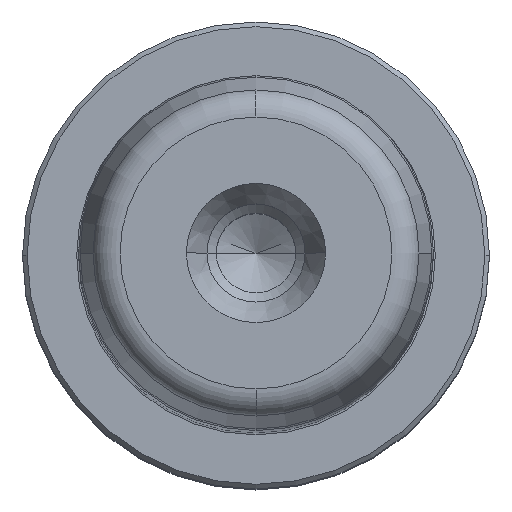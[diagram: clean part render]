
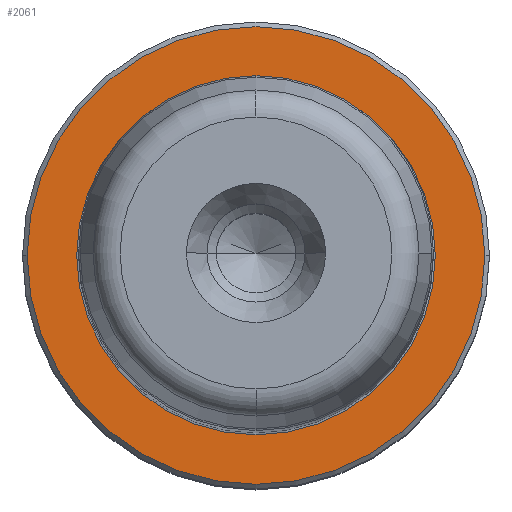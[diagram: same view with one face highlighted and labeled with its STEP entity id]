
A CAD part, top view. The second image highlights one B-rep face of the part: STEP entity #2061.
In plain terms, the highlighted planar face has unit normal (0, 0, 1).
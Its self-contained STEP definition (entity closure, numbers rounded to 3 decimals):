
#898=CARTESIAN_POINT('',(0.0,-19.2,5.));
#899=VERTEX_POINT('',#898);
#907=CARTESIAN_POINT('',(19.2,0.,5.0));
#908=VERTEX_POINT('',#907);
#909=CARTESIAN_POINT('',(0.0,0.,5.0));
#910=DIRECTION('',(0.0,0.0,1.0));
#911=DIRECTION('',(1.0,0.0,0.0));
#912=AXIS2_PLACEMENT_3D('',#909,#910,#911);
#913=CIRCLE('',#912,19.2);
#914=EDGE_CURVE('',#899,#908,#913,.T.);
#916=CARTESIAN_POINT('',(0.,19.2,5.));
#917=VERTEX_POINT('',#916);
#918=CARTESIAN_POINT('',(0.0,0.,5.0));
#919=DIRECTION('',(0.0,0.0,1.0));
#920=DIRECTION('',(1.0,0.0,0.0));
#921=AXIS2_PLACEMENT_3D('',#918,#919,#920);
#922=CIRCLE('',#921,19.2);
#923=EDGE_CURVE('',#908,#917,#922,.T.);
#950=CARTESIAN_POINT('',(24.5,0.,5.0));
#951=VERTEX_POINT('',#950);
#960=CARTESIAN_POINT('',(-24.5,0.,5.0));
#961=VERTEX_POINT('',#960);
#962=CARTESIAN_POINT('',(0.0,0.,5.0));
#963=DIRECTION('',(0.0,0.0,1.0));
#964=DIRECTION('',(1.0,0.0,0.0));
#965=AXIS2_PLACEMENT_3D('',#962,#963,#964);
#966=CIRCLE('',#965,24.5);
#967=EDGE_CURVE('',#961,#951,#966,.T.);
#2031=CARTESIAN_POINT('',(0.0,0.,5.0));
#2032=DIRECTION('',(0.0,0.0,1.0));
#2033=DIRECTION('',(1.0,0.0,0.0));
#2034=AXIS2_PLACEMENT_3D('',#2031,#2032,#2033);
#2035=CIRCLE('',#2034,24.5);
#2036=EDGE_CURVE('',#951,#961,#2035,.T.);
#2041=CARTESIAN_POINT('',(21.85,0.,5.0));
#2042=DIRECTION('',(0.0,0.0,1.0));
#2043=DIRECTION('',(0.0,-1.0,0.0));
#2044=AXIS2_PLACEMENT_3D('',#2041,#2042,#2043);
#2045=PLANE('',#2044);
#2046=ORIENTED_EDGE('',*,*,#2036,.T.);
#2047=ORIENTED_EDGE('',*,*,#967,.T.);
#2048=EDGE_LOOP('',(#2046,#2047));
#2049=FACE_OUTER_BOUND('',#2048,.T.);
#2050=ORIENTED_EDGE('',*,*,#923,.F.);
#2051=ORIENTED_EDGE('',*,*,#914,.F.);
#2052=CARTESIAN_POINT('',(0.0,0.,5.0));
#2053=DIRECTION('',(0.0,0.0,1.0));
#2054=DIRECTION('',(1.0,0.0,0.0));
#2055=AXIS2_PLACEMENT_3D('',#2052,#2053,#2054);
#2056=CIRCLE('',#2055,19.2);
#2057=EDGE_CURVE('',#917,#899,#2056,.T.);
#2058=ORIENTED_EDGE('',*,*,#2057,.F.);
#2059=EDGE_LOOP('',(#2050,#2051,#2058));
#2060=FACE_BOUND('',#2059,.T.);
#2061=ADVANCED_FACE('',(#2049,#2060),#2045,.T.);
